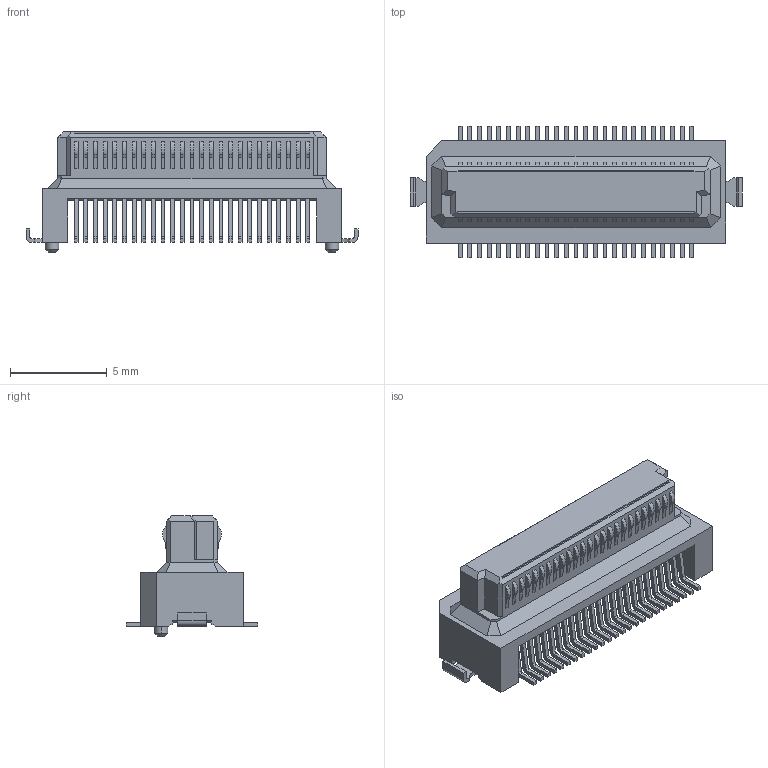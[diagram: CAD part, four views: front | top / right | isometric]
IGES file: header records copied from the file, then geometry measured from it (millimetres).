
Start section: Elysium IGES Interface
Global section: file name: 115HG:\その他\DY関連\CAD\依頼書（ウェブ）_HP用データ\60-36-0120_DY1X-S-2_S-3_S-4_S-5\DY11-050S-3\P3A288_DY11-050S-3.igs; native system: Creo Elements/Direct Modeling 20.4A  18-Oct-2021; preprocessor: Creo Element/Direct IGES_3D V2.2; author: Unknown; organization: Unknown; date: 20220224.200536; units: millimetre
Bounding box: 17.2 x 6.8 x 6.23 mm (x, y, z)
Volume: 190.9 mm3; surface area: 490.7 mm2
Topology: 1 solids, 1 shells, 834 faces, 2151 edges, 1422 vertices
Faces by surface type: bspline 834
